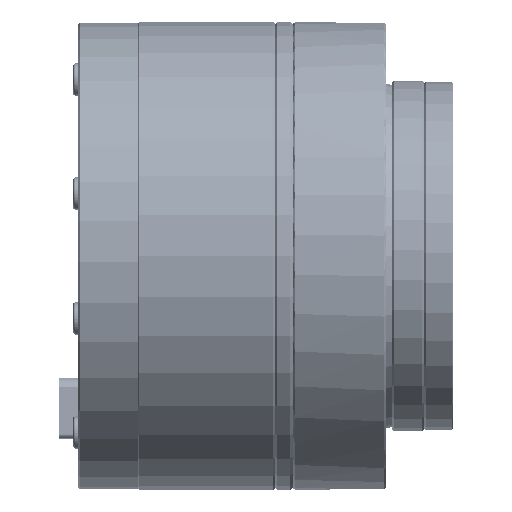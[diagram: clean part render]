
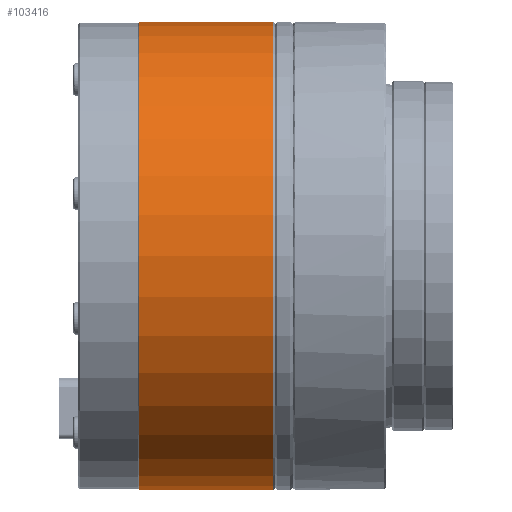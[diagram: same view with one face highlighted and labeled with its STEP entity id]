
A CAD part, front view. The second image highlights one B-rep face of the part: STEP entity #103416.
In plain terms, the highlighted cylindrical face has radius 40 mm (diameter 80 mm), a full revolution.
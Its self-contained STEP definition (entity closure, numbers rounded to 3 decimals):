
#9103 = DIRECTION ( 'NONE',  ( -1., 0., 0. ) ) ;
#15067 = VERTEX_POINT ( 'NONE', #67560 ) ;
#28939 = DIRECTION ( 'NONE',  ( -1., 0., 0. ) ) ;
#29069 = VERTEX_POINT ( 'NONE', #54515 ) ;
#29264 = EDGE_CURVE ( 'NONE', #15067, #15067, #158635, .T. ) ;
#35355 = EDGE_LOOP ( 'NONE', ( #141531 ) ) ;
#45117 = FACE_OUTER_BOUND ( 'NONE', #84305, .T. ) ;
#48301 = CYLINDRICAL_SURFACE ( 'NONE', #82486, 40. ) ;
#52775 = DIRECTION ( 'NONE',  ( 0., 0., 1. ) ) ;
#54515 = CARTESIAN_POINT ( 'NONE',  ( -20.776, 0., -40. ) ) ;
#67560 = CARTESIAN_POINT ( 'NONE',  ( 2.124, 0., 40. ) ) ;
#73504 = AXIS2_PLACEMENT_3D ( 'NONE', #102587, #117321, #131974 ) ;
#73956 = CIRCLE ( 'NONE', #73504, 40. ) ;
#82486 = AXIS2_PLACEMENT_3D ( 'NONE', #133631, #28939, #88500 ) ;
#84305 = EDGE_LOOP ( 'NONE', ( #90237 ) ) ;
#87451 = AXIS2_PLACEMENT_3D ( 'NONE', #182714, #9103, #52775 ) ;
#88500 = DIRECTION ( 'NONE',  ( 0., 0., -1. ) ) ;
#90237 = ORIENTED_EDGE ( 'NONE', *, *, #105740, .T. ) ;
#102587 = CARTESIAN_POINT ( 'NONE',  ( -20.776, 0., 0. ) ) ;
#103416 = ADVANCED_FACE ( 'NONE', ( #45117, #174287 ), #48301, .T. ) ;
#105740 = EDGE_CURVE ( 'NONE', #29069, #29069, #73956, .T. ) ;
#117321 = DIRECTION ( 'NONE',  ( 1., 0., 0. ) ) ;
#131974 = DIRECTION ( 'NONE',  ( 0., 0., -1. ) ) ;
#133631 = CARTESIAN_POINT ( 'NONE',  ( 2.424, 0., 0. ) ) ;
#141531 = ORIENTED_EDGE ( 'NONE', *, *, #29264, .T. ) ;
#158635 = CIRCLE ( 'NONE', #87451, 40. ) ;
#174287 = FACE_OUTER_BOUND ( 'NONE', #35355, .T. ) ;
#182714 = CARTESIAN_POINT ( 'NONE',  ( 2.124, 0., 0. ) ) ;
